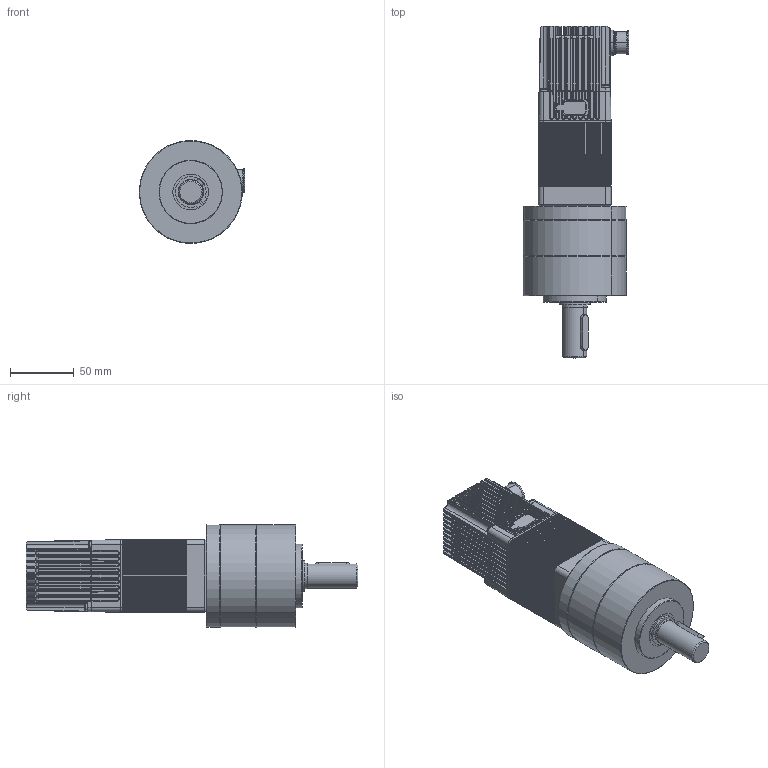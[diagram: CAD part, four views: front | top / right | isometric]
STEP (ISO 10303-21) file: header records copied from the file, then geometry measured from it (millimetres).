
FILE_DESCRIPTION((''),'2;1');
FILE_NAME('ENV_SIMP_STEP_TEMP','2012-10-24T',('VALJBL1'),('CROUZET-AUTOMATISMES'),'PRO/ENGINEER BY PARAMETRIC TECHNOLOGY CORPORATION, 2012090','PRO/ENGINEER BY PARAMETRIC TECHNOLOGY CORPORATION, 2012090','');
FILE_SCHEMA(('CONFIG_CONTROL_DESIGN'));
Products named in the file (1): ENV_SIMP_STEP_TEMP
Bounding box: 82.7 x 261.15 x 80.69 mm (x, y, z)
Surface area: 116606.8 mm2 (no closed solid volume)
Topology: 0 solids, 214 shells, 3181 faces, 9739 edges, 6519 vertices
Faces by surface type: cylinder 1567, plane 1340, sphere 124, torus 61, bspline 57, cone 32
Entity records: 111856 total; most frequent: CARTESIAN_POINT 30278, DIRECTION 16859, ORIENTED_EDGE 14570, EDGE_CURVE 9739, VERTEX_POINT 6519, VECTOR 5763, LINE 5763, AXIS2_PLACEMENT_3D 5548
